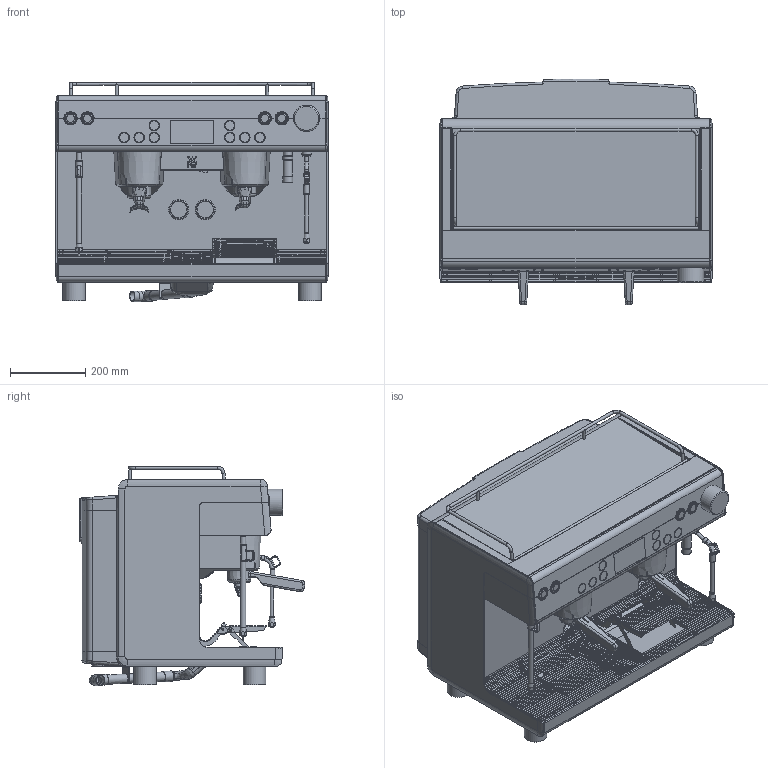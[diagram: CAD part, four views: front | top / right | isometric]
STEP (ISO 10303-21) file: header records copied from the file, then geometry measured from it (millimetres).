
FILE_DESCRIPTION(/* description */ (''),/* implementation_level */ '2;1');
FILE_NAME(/* name */ 'D:\Projekte\WMF\am\5500\3D\5500_3D.stp',/* time_stamp */ '2016-01-16T12:06:23+01:00',/* author */ ('AM'),/* organization */ (''),/* preprocessor_version */ 'ST-DEVELOPER v15.2',/* originating_system */ 'Autodesk Inventor 2014',/* authorisation */ '');
FILE_SCHEMA (('AUTOMOTIVE_DESIGN { 1 0 10303 214 3 1 1 }'));
Products named in the file (1): 5500_3D
Bounding box: 722.4 x 598.69 x 581.76 mm (x, y, z)
Volume: 132784855.5 mm3; surface area: 2783857.2 mm2
Topology: 65 solids, 77 shells, 3313 faces, 8636 edges, 5477 vertices
Faces by surface type: plane 1398, cylinder 1028, bspline 580, torus 194, cone 105, sphere 8
Full cylindrical faces by diameter (mm): 1.4 x8, 3 x173, 4 x11, 6 x20, 8 x12, 10 x3, 12 x2, 14 x2, 16 x1, 20 x1, 22 x3, 22.7 x1, 23 x4, 25 x12, 26 x2, 28 x11, 28.5 x4, 29.1 x4, 35.25 x4, 53.9 x2, 60 x4, 70 x3
Entity records: 117282 total; most frequent: CARTESIAN_POINT 39536, ORIENTED_EDGE 16194, DIRECTION 15641, EDGE_CURVE 8003, AXIS2_PLACEMENT_3D 5754, VERTEX_POINT 5268, LINE 4133, VECTOR 4133
